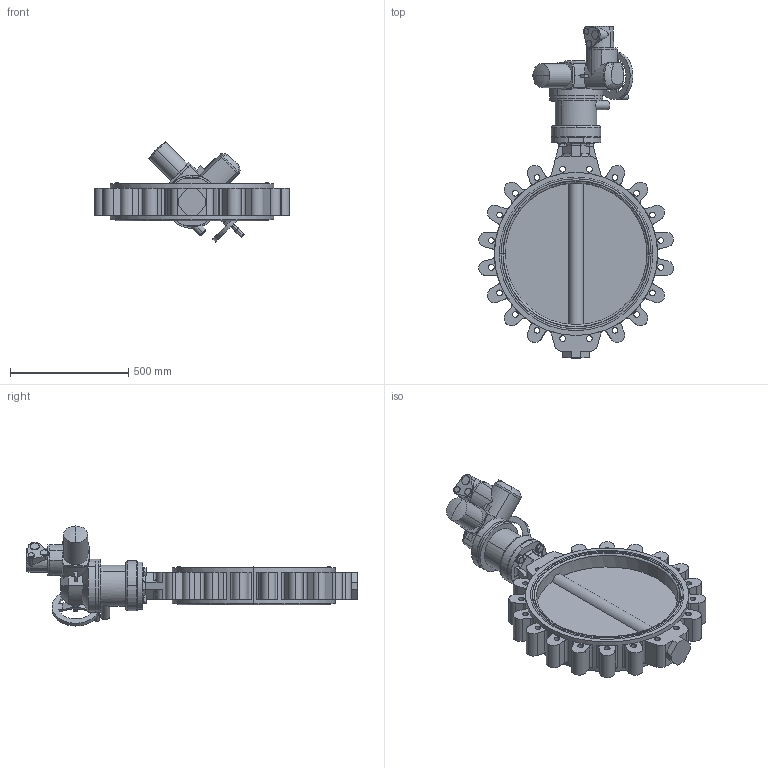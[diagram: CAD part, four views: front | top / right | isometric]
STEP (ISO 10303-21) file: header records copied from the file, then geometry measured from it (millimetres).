
FILE_DESCRIPTION (( 'STEP AP214' ), '1' );
FILE_NAME ('67560.step', '2020-10-23T13:47:28', ( '' ), ( '' ), 'SwSTEP 2.0', 'SolidWorks 2019', '' );
FILE_SCHEMA (( 'AUTOMOTIVE_DESIGN' ));
Length unit declared in the file: millimetre
Products named in the file (7): 6kt-Schr DIN 933_M20x55; SQ(R) 14.2_SQ14.2 Drehstrommotor F16; Gewindestift mit Kegelkuppe und In-6kt DIN 913 A4_Gewindestift mit In-6kt M6x12; 54377_SQ14.2 F16-VK46; TL20-0600_M01; U-Scheibe DIN 125 A_M20; 67560
Assembly tree (12 placements, depth 2):
  67560
    TL20-0600_M01
    U-Scheibe DIN 125 A_M20  x4
    6kt-Schr DIN 933_M20x55  x4
    SQ(R) 14.2_SQ14.2 Drehstrommotor F16
    54377_SQ14.2 F16-VK46
    Gewindestift mit Kegelkuppe und In-6kt DIN 913 A4_Gewindestift mit In-6kt M6x12
Bounding box: 823.44 x 1404 x 423.5 mm (x, y, z)
Volume: 46708293.2 mm3; surface area: 2794801 mm2
Topology: 12 solids, 22 shells, 934 faces, 2311 edges, 1482 vertices
Faces by surface type: plane 444, cylinder 351, cone 101, bspline 18, torus 16, sphere 4
Entity records: 35124 total; most frequent: CARTESIAN_POINT 9536, DIRECTION 4400, ORIENTED_EDGE 4202, EDGE_CURVE 2101, AXIS2_PLACEMENT_3D 1657, VERTEX_POINT 1360, VECTOR 1086, LINE 1086
